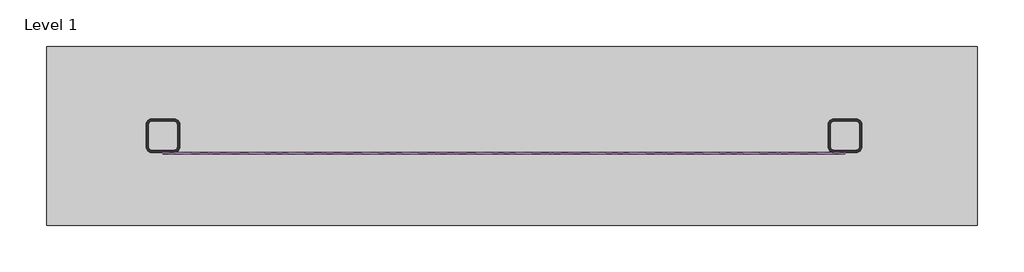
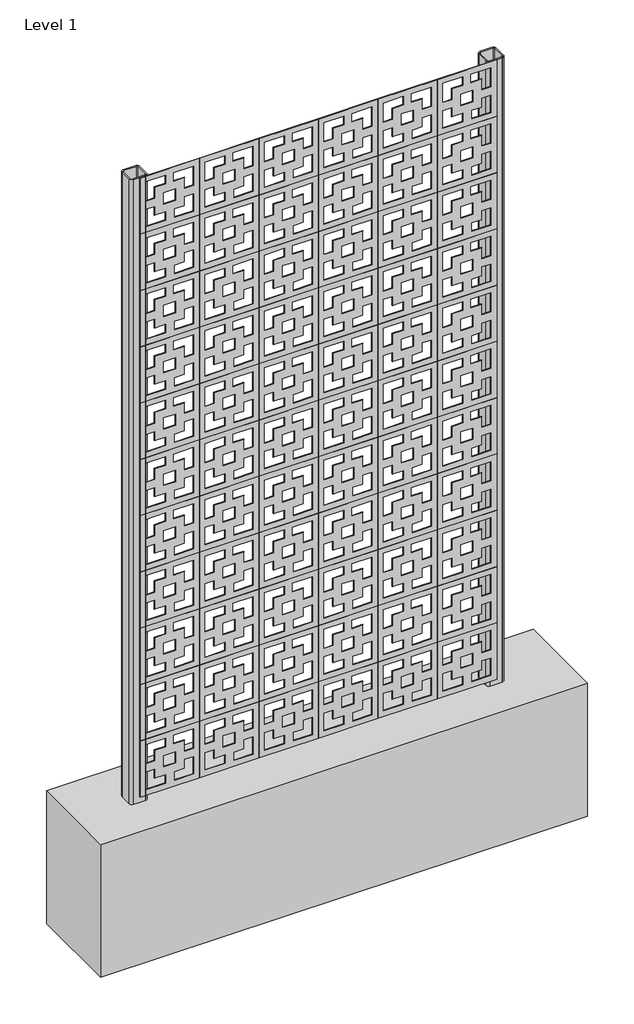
# One storey: 66 plates, 2 columns, 1 beam.
"""IFC4 building model written with IfcOpenShell, lengths in millimetres."""

import ifcopenshell
import ifcopenshell.guid

model = None  # the IFC model being written
_history = None  # IfcOwnerHistory: only IFC2X3 demands one
_inside = {}  # id of a spatial element -> (the spatial element, [elements in it])
_under = {}  # id of a project, library or spatial element -> (it, [spatial elements below it])
_declared = {}  # id of a project -> (the project, [libraries it declares])
_typed = {}  # id of a type object -> (the type object, [elements of that type])
_made_of = {}  # id of a material, layer set ... -> (it, [elements and type objects made of it])


def new_model(schema):
    """Start an empty IFC model of exactly this schema.

    Asked for "IFC4X3", IfcOpenShell would pick the latest addendum, in which some entities
    have other attributes; the version numbers below select the first issue.
    IFC2X3 requires an IfcOwnerHistory on every rooted entity: one is made here for all.
    """
    global model, _history
    if schema == "IFC4X3":
        model = ifcopenshell.file(schema_version=(4, 3, 0, 0))
    else:
        model = ifcopenshell.file(schema=schema)
    _inside.clear()
    _under.clear()
    _declared.clear()
    _typed.clear()
    _made_of.clear()
    _history = None
    if model.schema == "IFC2X3":
        org = make("IfcOrganization", Name="unknown")
        user = make(
            "IfcPersonAndOrganization",
            ThePerson=make("IfcPerson", FamilyName="unknown"),
            TheOrganization=org,
        )
        app = make(
            "IfcApplication",
            ApplicationDeveloper=org,
            Version="unknown",
            ApplicationFullName="unknown",
            ApplicationIdentifier="unknown",
        )
        _history = make(
            "IfcOwnerHistory",
            OwningUser=user,
            OwningApplication=app,
            ChangeAction="ADDED",
            CreationDate=0,
        )
    return model


def make(cls, **values):
    """One entity of the class cls with the attributes given. An attribute that is None is left unset."""
    return model.create_entity(
        cls, **{name: value for name, value in values.items() if value is not None}
    )


def rooted(cls, **values):
    """An entity with a GlobalId (a new one), such as an element, a storey or a relation."""
    return make(cls, GlobalId=ifcopenshell.guid.new(), OwnerHistory=_history, **values)


def si_unit(unit_type, name, prefix=None):
    """IfcSIUnit, for example si_unit("LENGTHUNIT", "METRE", prefix="MILLI")."""
    return make("IfcSIUnit", UnitType=unit_type, Prefix=prefix, Name=name)


def assignment(units):
    """IfcUnitAssignment: the units of a project."""
    return None if units is None else make("IfcUnitAssignment", Units=units)


def point(xyz):
    """IfcCartesianPoint."""
    return None if xyz is None else make("IfcCartesianPoint", Coordinates=xyz)


def direction(xyz):
    """IfcDirection."""
    return None if xyz is None else make("IfcDirection", DirectionRatios=xyz)


def frame(location, z_axis=None, x_axis=None):
    """IfcAxis2Placement3D, a coordinate frame: its origin and axes. An axis left out is left unset."""
    return make(
        "IfcAxis2Placement3D",
        Location=point(location),
        Axis=direction(z_axis),
        RefDirection=direction(x_axis),
    )


def frame_2d(location, x_axis=None):
    """IfcAxis2Placement2D, a coordinate frame in the plane: its origin and x axis."""
    return make(
        "IfcAxis2Placement2D", Location=point(location), RefDirection=direction(x_axis)
    )


def origin():
    """The frame at (0, 0, 0) with its axes left unset."""
    return frame((0.0, 0.0, 0.0))


def origin_with_axes():
    """The frame at (0, 0, 0) with the z axis (0, 0, 1) and the x axis (1, 0, 0) written out."""
    return frame((0.0, 0.0, 0.0), z_axis=(0.0, 0.0, 1.0), x_axis=(1.0, 0.0, 0.0))


def place(relative_to, where):
    """IfcLocalPlacement: puts the frame where relative to a parent placement (None: the world)."""
    return make(
        "IfcLocalPlacement", PlacementRelTo=relative_to, RelativePlacement=where
    )


def context(
    kind, dimensions, precision=None, world=None, true_north=None, identifier=None
):
    """IfcGeometricRepresentationContext, for example the 3D "Model" context."""
    return make(
        "IfcGeometricRepresentationContext",
        ContextIdentifier=identifier,
        ContextType=kind,
        CoordinateSpaceDimension=dimensions,
        Precision=precision,
        WorldCoordinateSystem=world,
        TrueNorth=true_north,
    )


def project(units=None, contexts=None):
    """IfcProject with its units and contexts."""
    return rooted(
        "IfcProject",
        Name="project",
        RepresentationContexts=contexts,
        UnitsInContext=assignment(units),
    )


def spatial(cls, under=None, at=None, **own):
    """A site, building, storey or space (cls), placed at a placement, below another one or the project."""
    s = rooted(cls, ObjectPlacement=at, **own)
    if under is not None:
        _under.setdefault(under.id(), (under, []))[1].append(s)
    return s


def polyline(points):
    """IfcPolyline through the points."""
    return make("IfcPolyline", Points=[point(p) for p in points])


def circle_curve(where, radius):
    """IfcCircle in the frame where."""
    return make("IfcCircle", Position=where, Radius=radius)


def trimmed(basis, trim1, trim2, sense, master):
    """IfcTrimmedCurve: the piece of a basis curve between two trims."""
    return make(
        "IfcTrimmedCurve",
        BasisCurve=basis,
        Trim1=trim1,
        Trim2=trim2,
        SenseAgreement=sense,
        MasterRepresentation=master,
    )


def segment(curve, same_sense, transition):
    """IfcCompositeCurveSegment."""
    return make(
        "IfcCompositeCurveSegment",
        Transition=transition,
        SameSense=same_sense,
        ParentCurve=curve,
    )


def composite_curve(segments, self_intersect=None):
    """IfcCompositeCurve: segments joined end to end."""
    return make("IfcCompositeCurve", Segments=segments, SelfIntersect=self_intersect)


def outline(outer, holes=None, kind="AREA"):
    """IfcArbitraryClosedProfileDef: a profile drawn as a closed curve; with holes, ...WithVoids."""
    if holes is None:
        return make("IfcArbitraryClosedProfileDef", ProfileType=kind, OuterCurve=outer)
    return make(
        "IfcArbitraryProfileDefWithVoids",
        ProfileType=kind,
        OuterCurve=outer,
        InnerCurves=holes,
    )


def extrude(swept, where, along, depth):
    """IfcExtrudedAreaSolid: the profile swept, set in the frame where, extruded along a direction by depth."""
    return make(
        "IfcExtrudedAreaSolid",
        SweptArea=swept,
        Position=where,
        ExtrudedDirection=direction(along),
        Depth=depth,
    )


def shape(context_of_items, identifier, shape_type, items):
    """IfcShapeRepresentation: the items that make up one representation, for example the "Body"."""
    return make(
        "IfcShapeRepresentation",
        ContextOfItems=context_of_items,
        RepresentationIdentifier=identifier,
        RepresentationType=shape_type,
        Items=items,
    )


def source(mapping_origin, context_of_items, identifier, shape_type, items):
    """IfcRepresentationMap: a shape defined once, which mapped items show again and again."""
    return make(
        "IfcRepresentationMap",
        MappingOrigin=mapping_origin,
        MappedRepresentation=shape(context_of_items, identifier, shape_type, items),
    )


def transform(
    local_origin,
    x_axis=None,
    y_axis=None,
    z_axis=None,
    scale=None,
    scale2=None,
    scale3=None,
    uniform=True,
):
    """IfcCartesianTransformationOperator3D, or its non-uniform kind. x_axis, y_axis, z_axis: its Axis1, 2, 3."""
    if uniform:
        return make(
            "IfcCartesianTransformationOperator3D",
            Axis1=direction(x_axis),
            Axis2=direction(y_axis),
            LocalOrigin=point(local_origin),
            Scale=scale,
            Axis3=direction(z_axis),
        )
    return make(
        "IfcCartesianTransformationOperator3DnonUniform",
        Axis1=direction(x_axis),
        Axis2=direction(y_axis),
        LocalOrigin=point(local_origin),
        Scale=scale,
        Axis3=direction(z_axis),
        Scale2=scale2,
        Scale3=scale3,
    )


def mapped(mapping_source, mapping_target):
    """IfcMappedItem: shows the shape of a source again, moved by a transform."""
    return make(
        "IfcMappedItem", MappingSource=mapping_source, MappingTarget=mapping_target
    )


def made_of(thing, what):
    """Note that an element or type object is made of a material, layer set ...; save() writes the relation."""
    if what is not None:
        _made_of.setdefault(what.id(), (what, []))[1].append(thing)
    return thing


def element(
    cls,
    number,
    at=None,
    inside=None,
    cuts=None,
    type_object=None,
    material=None,
    context=None,
    identifier="Body",
    shape_type=None,
    held_by="IfcProductDefinitionShape",
    body=None,
    shapes=None,
    **own,
):
    """One element of the class cls, such as IfcWall. Its Tag is "e" and its number.

    at: its placement. inside: the storey or other place that contains it. cuts: it is an
    opening in that element (IfcRelVoidsElement). A single representation is given by context,
    identifier, shape_type and body (its items); several are given by shapes. held_by: the class
    of the entity that holds the representations. save() writes the other relations.
    """
    e = rooted(cls, Tag="e%d" % number, ObjectPlacement=at, **own)
    if body is not None:
        shapes = [shape(context, identifier, shape_type, body)]
    if shapes is not None:
        e.Representation = make(held_by, Representations=shapes)
    if inside is not None:
        _inside.setdefault(inside.id(), (inside, []))[1].append(e)
    if cuts is not None:
        rooted(
            "IfcRelVoidsElement", RelatingBuildingElement=cuts, RelatedOpeningElement=e
        )
    if type_object is not None:
        _typed.setdefault(type_object.id(), (type_object, []))[1].append(e)
    return made_of(e, material)


def aggregate(whole, parts):
    """IfcRelAggregates: a whole, such as a stair, and the parts it consists of."""
    return rooted("IfcRelAggregates", RelatingObject=whole, RelatedObjects=parts)


def save(model, path):
    """Write the relations noted so far, then the file.

    IfcRelAggregates (storeys below a building ...), IfcRelContainedInSpatialStructure (elements
    in a storey), IfcRelDefinesByType, IfcRelAssociatesMaterial and IfcRelDeclares: one each for
    every whole, place, type object, material and project.
    """
    for whole, parts in _under.values():
        aggregate(whole, parts)
    for where, things in _inside.values():
        rooted(
            "IfcRelContainedInSpatialStructure",
            RelatedElements=things,
            RelatingStructure=where,
        )
    for kind, things in _typed.values():
        rooted("IfcRelDefinesByType", RelatedObjects=things, RelatingType=kind)
    for what, things in _made_of.values():
        rooted("IfcRelAssociatesMaterial", RelatedObjects=things, RelatingMaterial=what)
    for by, libraries in _declared.values():
        rooted("IfcRelDeclares", RelatingContext=by, RelatedDefinitions=libraries)
    model.write(path)


def concrete_rectangular_beam_400_x_600mm_1df2221c(model_context):
    return source(origin(), model_context, "Body", "SweptSolid", [
        extrude(outline(polyline([(1040.0, 199.9753906), (1040.0, -199.9753906), (-1040.0, -199.9753906), (-1040.0, 199.9753906), (1040.0, 199.9753906)])), frame((0.0, 0.0, -300.0), z_axis=(0.0, 0.0, 1.0), x_axis=(1.0, 0.0, 0.0)), (0.0, 0.0, 1.0), 600.0),
    ])


def shs_75x75x5_c6d00cb3(model_context):
    return source(origin(), model_context, "Body", "SweptSolid", [
        extrude(outline(composite_curve([segment(trimmed(circle_curve(frame_2d((25.5, 25.5)), 12.0), [point((25.5, 37.5))], [point((37.5, 25.5))], False, "CARTESIAN"), True, "CONTINUOUS"), segment(polyline([(37.5, 25.5), (37.5, -25.5)]), True, "CONTINUOUS"), segment(trimmed(circle_curve(frame_2d((25.5, -25.5)), 12.0), [point((37.5, -25.5))], [point((25.5, -37.5))], False, "CARTESIAN"), True, "CONTINUOUS"), segment(polyline([(25.5, -37.5), (-25.5, -37.5)]), True, "CONTINUOUS"), segment(trimmed(circle_curve(frame_2d((-25.5, -25.5)), 12.0), [point((-25.5, -37.5))], [point((-37.5, -25.5))], False, "CARTESIAN"), True, "CONTINUOUS"), segment(polyline([(-37.5, -25.5), (-37.5, 25.5)]), True, "CONTINUOUS"), segment(trimmed(circle_curve(frame_2d((-25.5, 25.5)), 12.0), [point((-37.5, 25.5))], [point((-25.5, 37.5))], False, "CARTESIAN"), True, "CONTINUOUS"), segment(polyline([(-25.5, 37.5), (25.5, 37.5)]), True, "CONTINUOUS")], self_intersect=False), holes=[composite_curve([segment(polyline([(25.5, 31.5), (-25.5, 31.5)]), True, "CONTINUOUS"), segment(trimmed(circle_curve(frame_2d((-25.5, 25.5)), 6.0), [point((-25.5, 31.5))], [point((-31.5, 25.5))], True, "CARTESIAN"), True, "CONTINUOUS"), segment(polyline([(-31.5, 25.5), (-31.5, -25.5)]), True, "CONTINUOUS"), segment(trimmed(circle_curve(frame_2d((-25.5, -25.5)), 6.0), [point((-31.5, -25.5))], [point((-25.5, -31.5))], True, "CARTESIAN"), True, "CONTINUOUS"), segment(polyline([(-25.5, -31.5), (25.5, -31.5)]), True, "CONTINUOUS"), segment(trimmed(circle_curve(frame_2d((25.5, -25.5)), 6.0), [point((25.5, -31.5))], [point((31.5, -25.5))], True, "CARTESIAN"), True, "CONTINUOUS"), segment(polyline([(31.5, -25.5), (31.5, 25.5)]), True, "CONTINUOUS"), segment(trimmed(circle_curve(frame_2d((25.5, 25.5)), 6.0), [point((31.5, 25.5))], [point((25.5, 31.5))], True, "CARTESIAN"), True, "CONTINUOUS")], self_intersect=False)]), origin_with_axes(), (0.0, 0.0, 1.0), 2819.4),
    ])


def curtain_garden_party_curtain_garden_party_a87d6bce(model_context):
    return source(origin(), model_context, "Body", "SweptSolid", [
        extrude(outline(polyline([(254.0, 127.0), (254.0, -127.0), (0.0, -127.0), (0.0, 127.0), (254.0, 127.0)]), holes=[polyline([(228.6, -17.05), (190.5, -17.05), (190.5, -63.5), (142.05, -63.5), (142.05, -101.6), (228.6, -101.6), (228.6, -17.05)]), polyline([(152.4, 25.4), (101.6, 25.4), (101.6, -25.4), (152.4, -25.4), (152.4, 25.4)]), polyline([(190.5, 17.05), (228.6, 17.05), (228.6, 101.6), (142.05, 101.6), (142.05, 63.5), (190.5, 63.5), (190.5, 17.05)]), polyline([(25.4, -17.05), (25.4, -101.6), (103.95, -101.6), (103.95, -63.5), (63.5, -63.5), (63.5, -17.05), (25.4, -17.05)]), polyline([(63.5, 21.05), (63.5, 63.5), (103.95, 63.5), (103.95, 101.6), (25.4, 101.6), (25.4, 21.05), (63.5, 21.05)])]), frame((0.0, -3.175, 0.0), z_axis=(0.0, 1.0, 0.0), x_axis=(0.0, 0.0, 1.0)), (0.0, 0.0, 1.0), 3.175),
    ])


model = new_model("IFC4")

# Units and contexts
model_context = context("Model", 3, world=origin())
ifc_project = project(units=[si_unit("LENGTHUNIT", "METRE", prefix="MILLI")], contexts=[model_context])

# Site, building, storey
site = spatial("IfcSite", under=ifc_project)
building = spatial("IfcBuilding", under=site)
storey = spatial("IfcBuildingStorey", under=building, Name="Level 1", Elevation=0.0)

# Beam
placement = place(None, origin())
concrete_rectangular_beam_400_x_600mm_shape = concrete_rectangular_beam_400_x_600mm_1df2221c(model_context)
element("IfcBeam", 1, ObjectType="Concrete-Rectangular Beam : 400 x 600mm", at=placement, inside=storey, context=model_context, shape_type="MappedRepresentation", body=[
    mapped(concrete_rectangular_beam_400_x_600mm_shape, transform((-6428.7598487, 114.0371028, -300.0), x_axis=(1.0, 0.0, 0.0), y_axis=(0.0, 1.0, 0.0), z_axis=(0.0, 0.0, 1.0))),
])

# Columns
shs_75x75x5_shape = shs_75x75x5_c6d00cb3(model_context)
element("IfcColumn", 2, ObjectType="NIA_ST_CLMN_RHS-Rectangular Hollow Section-Column : SHS 75x75x5", at=placement, inside=storey, context=model_context, shape_type="MappedRepresentation", body=[
    mapped(shs_75x75x5_shape, transform((-5684.7598487, 114.0371028, 0.0), x_axis=(1.0, 0.0, 0.0), y_axis=(0.0, 1.0, 0.0), z_axis=(0.0, 0.0, 1.0))),
])
element("IfcColumn", 3, ObjectType="NIA_ST_CLMN_RHS-Rectangular Hollow Section-Column : SHS 75x75x5", at=placement, inside=storey, context=model_context, shape_type="MappedRepresentation", body=[
    mapped(shs_75x75x5_shape, transform((-7208.7598487, 114.0371028, 0.0), x_axis=(1.0, 0.0, 0.0), y_axis=(0.0, 1.0, 0.0), z_axis=(0.0, 0.0, 1.0))),
])

# Plates
curtain_garden_party_curtain_garden_party_shape = curtain_garden_party_curtain_garden_party_a87d6bce(model_context)
element("IfcPlate", 4, ObjectType="Curtain_Garden_Party : Curtain_Garden_Party", at=placement, inside=storey, context=model_context, shape_type="MappedRepresentation", body=[
    mapped(curtain_garden_party_curtain_garden_party_shape, transform((-7081.7598486, 76.5371028, 25.4), x_axis=(1.0, 0.0, 0.0), y_axis=(0.0, 1.0, 0.0), z_axis=(0.0, 0.0, 1.0))),
])
element("IfcPlate", 5, ObjectType="Curtain_Garden_Party : Curtain_Garden_Party", at=placement, inside=storey, context=model_context, shape_type="MappedRepresentation", body=[
    mapped(curtain_garden_party_curtain_garden_party_shape, transform((-6827.7598486, 76.5371028, 25.4), x_axis=(1.0, 0.0, 0.0), y_axis=(0.0, 1.0, 0.0), z_axis=(0.0, 0.0, 1.0))),
])
element("IfcPlate", 6, ObjectType="Curtain_Garden_Party : Curtain_Garden_Party", at=placement, inside=storey, context=model_context, shape_type="MappedRepresentation", body=[
    mapped(curtain_garden_party_curtain_garden_party_shape, transform((-6573.7598487, 76.5371028, 25.4), x_axis=(1.0, 0.0, 0.0), y_axis=(0.0, 1.0, 0.0), z_axis=(0.0, 0.0, 1.0))),
])
element("IfcPlate", 7, ObjectType="Curtain_Garden_Party : Curtain_Garden_Party", at=placement, inside=storey, context=model_context, shape_type="MappedRepresentation", body=[
    mapped(curtain_garden_party_curtain_garden_party_shape, transform((-6319.7598488, 76.5371028, 25.4), x_axis=(1.0, 0.0, 0.0), y_axis=(0.0, 1.0, 0.0), z_axis=(0.0, 0.0, 1.0))),
])
element("IfcPlate", 8, ObjectType="Curtain_Garden_Party : Curtain_Garden_Party", at=placement, inside=storey, context=model_context, shape_type="MappedRepresentation", body=[
    mapped(curtain_garden_party_curtain_garden_party_shape, transform((-6065.7598489, 76.5371028, 25.4), x_axis=(1.0, 0.0, 0.0), y_axis=(0.0, 1.0, 0.0), z_axis=(0.0, 0.0, 1.0))),
])
element("IfcPlate", 9, ObjectType="Curtain_Garden_Party : Curtain_Garden_Party", at=placement, inside=storey, context=model_context, shape_type="MappedRepresentation", body=[
    mapped(curtain_garden_party_curtain_garden_party_shape, transform((-5811.7598488, 76.5371028, 25.4), x_axis=(1.0, 0.0, 0.0), y_axis=(0.0, 1.0, 0.0), z_axis=(0.0, 0.0, 1.0))),
])
element("IfcPlate", 10, ObjectType="Curtain_Garden_Party : Curtain_Garden_Party", at=placement, inside=storey, context=model_context, shape_type="MappedRepresentation", body=[
    mapped(curtain_garden_party_curtain_garden_party_shape, transform((-7081.7598486, 76.5371028, 279.4), x_axis=(1.0, 0.0, 0.0), y_axis=(0.0, 1.0, 0.0), z_axis=(0.0, 0.0, 1.0))),
])
element("IfcPlate", 11, ObjectType="Curtain_Garden_Party : Curtain_Garden_Party", at=placement, inside=storey, context=model_context, shape_type="MappedRepresentation", body=[
    mapped(curtain_garden_party_curtain_garden_party_shape, transform((-6827.7598486, 76.5371028, 279.4), x_axis=(1.0, 0.0, 0.0), y_axis=(0.0, 1.0, 0.0), z_axis=(0.0, 0.0, 1.0))),
])
element("IfcPlate", 12, ObjectType="Curtain_Garden_Party : Curtain_Garden_Party", at=placement, inside=storey, context=model_context, shape_type="MappedRepresentation", body=[
    mapped(curtain_garden_party_curtain_garden_party_shape, transform((-6573.7598487, 76.5371028, 279.4), x_axis=(1.0, 0.0, 0.0), y_axis=(0.0, 1.0, 0.0), z_axis=(0.0, 0.0, 1.0))),
])
element("IfcPlate", 13, ObjectType="Curtain_Garden_Party : Curtain_Garden_Party", at=placement, inside=storey, context=model_context, shape_type="MappedRepresentation", body=[
    mapped(curtain_garden_party_curtain_garden_party_shape, transform((-6319.7598488, 76.5371028, 279.4), x_axis=(1.0, 0.0, 0.0), y_axis=(0.0, 1.0, 0.0), z_axis=(0.0, 0.0, 1.0))),
])
element("IfcPlate", 14, ObjectType="Curtain_Garden_Party : Curtain_Garden_Party", at=placement, inside=storey, context=model_context, shape_type="MappedRepresentation", body=[
    mapped(curtain_garden_party_curtain_garden_party_shape, transform((-6065.7598489, 76.5371028, 279.4), x_axis=(1.0, 0.0, 0.0), y_axis=(0.0, 1.0, 0.0), z_axis=(0.0, 0.0, 1.0))),
])
element("IfcPlate", 15, ObjectType="Curtain_Garden_Party : Curtain_Garden_Party", at=placement, inside=storey, context=model_context, shape_type="MappedRepresentation", body=[
    mapped(curtain_garden_party_curtain_garden_party_shape, transform((-5811.7598488, 76.5371028, 279.4), x_axis=(1.0, 0.0, 0.0), y_axis=(0.0, 1.0, 0.0), z_axis=(0.0, 0.0, 1.0))),
])
element("IfcPlate", 16, ObjectType="Curtain_Garden_Party : Curtain_Garden_Party", at=placement, inside=storey, context=model_context, shape_type="MappedRepresentation", body=[
    mapped(curtain_garden_party_curtain_garden_party_shape, transform((-7081.7598486, 76.5371028, 533.4), x_axis=(1.0, 0.0, 0.0), y_axis=(0.0, 1.0, 0.0), z_axis=(0.0, 0.0, 1.0))),
])
element("IfcPlate", 17, ObjectType="Curtain_Garden_Party : Curtain_Garden_Party", at=placement, inside=storey, context=model_context, shape_type="MappedRepresentation", body=[
    mapped(curtain_garden_party_curtain_garden_party_shape, transform((-6827.7598486, 76.5371028, 533.4), x_axis=(1.0, 0.0, 0.0), y_axis=(0.0, 1.0, 0.0), z_axis=(0.0, 0.0, 1.0))),
])
element("IfcPlate", 18, ObjectType="Curtain_Garden_Party : Curtain_Garden_Party", at=placement, inside=storey, context=model_context, shape_type="MappedRepresentation", body=[
    mapped(curtain_garden_party_curtain_garden_party_shape, transform((-6573.7598487, 76.5371028, 533.4), x_axis=(1.0, 0.0, 0.0), y_axis=(0.0, 1.0, 0.0), z_axis=(0.0, 0.0, 1.0))),
])
element("IfcPlate", 19, ObjectType="Curtain_Garden_Party : Curtain_Garden_Party", at=placement, inside=storey, context=model_context, shape_type="MappedRepresentation", body=[
    mapped(curtain_garden_party_curtain_garden_party_shape, transform((-6319.7598488, 76.5371028, 533.4), x_axis=(1.0, 0.0, 0.0), y_axis=(0.0, 1.0, 0.0), z_axis=(0.0, 0.0, 1.0))),
])
element("IfcPlate", 20, ObjectType="Curtain_Garden_Party : Curtain_Garden_Party", at=placement, inside=storey, context=model_context, shape_type="MappedRepresentation", body=[
    mapped(curtain_garden_party_curtain_garden_party_shape, transform((-6065.7598489, 76.5371028, 533.4), x_axis=(1.0, 0.0, 0.0), y_axis=(0.0, 1.0, 0.0), z_axis=(0.0, 0.0, 1.0))),
])
element("IfcPlate", 21, ObjectType="Curtain_Garden_Party : Curtain_Garden_Party", at=placement, inside=storey, context=model_context, shape_type="MappedRepresentation", body=[
    mapped(curtain_garden_party_curtain_garden_party_shape, transform((-5811.7598488, 76.5371028, 533.4), x_axis=(1.0, 0.0, 0.0), y_axis=(0.0, 1.0, 0.0), z_axis=(0.0, 0.0, 1.0))),
])
element("IfcPlate", 22, ObjectType="Curtain_Garden_Party : Curtain_Garden_Party", at=placement, inside=storey, context=model_context, shape_type="MappedRepresentation", body=[
    mapped(curtain_garden_party_curtain_garden_party_shape, transform((-7081.7598486, 76.5371028, 787.4), x_axis=(1.0, 0.0, 0.0), y_axis=(0.0, 1.0, 0.0), z_axis=(0.0, 0.0, 1.0))),
])
element("IfcPlate", 23, ObjectType="Curtain_Garden_Party : Curtain_Garden_Party", at=placement, inside=storey, context=model_context, shape_type="MappedRepresentation", body=[
    mapped(curtain_garden_party_curtain_garden_party_shape, transform((-6827.7598486, 76.5371028, 787.4), x_axis=(1.0, 0.0, 0.0), y_axis=(0.0, 1.0, 0.0), z_axis=(0.0, 0.0, 1.0))),
])
element("IfcPlate", 24, ObjectType="Curtain_Garden_Party : Curtain_Garden_Party", at=placement, inside=storey, context=model_context, shape_type="MappedRepresentation", body=[
    mapped(curtain_garden_party_curtain_garden_party_shape, transform((-6573.7598487, 76.5371028, 787.4), x_axis=(1.0, 0.0, 0.0), y_axis=(0.0, 1.0, 0.0), z_axis=(0.0, 0.0, 1.0))),
])
element("IfcPlate", 25, ObjectType="Curtain_Garden_Party : Curtain_Garden_Party", at=placement, inside=storey, context=model_context, shape_type="MappedRepresentation", body=[
    mapped(curtain_garden_party_curtain_garden_party_shape, transform((-6319.7598488, 76.5371028, 787.4), x_axis=(1.0, 0.0, 0.0), y_axis=(0.0, 1.0, 0.0), z_axis=(0.0, 0.0, 1.0))),
])
element("IfcPlate", 26, ObjectType="Curtain_Garden_Party : Curtain_Garden_Party", at=placement, inside=storey, context=model_context, shape_type="MappedRepresentation", body=[
    mapped(curtain_garden_party_curtain_garden_party_shape, transform((-6065.7598489, 76.5371028, 787.4), x_axis=(1.0, 0.0, 0.0), y_axis=(0.0, 1.0, 0.0), z_axis=(0.0, 0.0, 1.0))),
])
element("IfcPlate", 27, ObjectType="Curtain_Garden_Party : Curtain_Garden_Party", at=placement, inside=storey, context=model_context, shape_type="MappedRepresentation", body=[
    mapped(curtain_garden_party_curtain_garden_party_shape, transform((-5811.7598488, 76.5371028, 787.4), x_axis=(1.0, 0.0, 0.0), y_axis=(0.0, 1.0, 0.0), z_axis=(0.0, 0.0, 1.0))),
])
element("IfcPlate", 28, ObjectType="Curtain_Garden_Party : Curtain_Garden_Party", at=placement, inside=storey, context=model_context, shape_type="MappedRepresentation", body=[
    mapped(curtain_garden_party_curtain_garden_party_shape, transform((-7081.7598486, 76.5371028, 1041.4), x_axis=(1.0, 0.0, 0.0), y_axis=(0.0, 1.0, 0.0), z_axis=(0.0, 0.0, 1.0))),
])
element("IfcPlate", 29, ObjectType="Curtain_Garden_Party : Curtain_Garden_Party", at=placement, inside=storey, context=model_context, shape_type="MappedRepresentation", body=[
    mapped(curtain_garden_party_curtain_garden_party_shape, transform((-6827.7598486, 76.5371028, 1041.4), x_axis=(1.0, 0.0, 0.0), y_axis=(0.0, 1.0, 0.0), z_axis=(0.0, 0.0, 1.0))),
])
element("IfcPlate", 30, ObjectType="Curtain_Garden_Party : Curtain_Garden_Party", at=placement, inside=storey, context=model_context, shape_type="MappedRepresentation", body=[
    mapped(curtain_garden_party_curtain_garden_party_shape, transform((-6573.7598487, 76.5371028, 1041.4), x_axis=(1.0, 0.0, 0.0), y_axis=(0.0, 1.0, 0.0), z_axis=(0.0, 0.0, 1.0))),
])
element("IfcPlate", 31, ObjectType="Curtain_Garden_Party : Curtain_Garden_Party", at=placement, inside=storey, context=model_context, shape_type="MappedRepresentation", body=[
    mapped(curtain_garden_party_curtain_garden_party_shape, transform((-6319.7598488, 76.5371028, 1041.4), x_axis=(1.0, 0.0, 0.0), y_axis=(0.0, 1.0, 0.0), z_axis=(0.0, 0.0, 1.0))),
])
element("IfcPlate", 32, ObjectType="Curtain_Garden_Party : Curtain_Garden_Party", at=placement, inside=storey, context=model_context, shape_type="MappedRepresentation", body=[
    mapped(curtain_garden_party_curtain_garden_party_shape, transform((-6065.7598489, 76.5371028, 1041.4), x_axis=(1.0, 0.0, 0.0), y_axis=(0.0, 1.0, 0.0), z_axis=(0.0, 0.0, 1.0))),
])
element("IfcPlate", 33, ObjectType="Curtain_Garden_Party : Curtain_Garden_Party", at=placement, inside=storey, context=model_context, shape_type="MappedRepresentation", body=[
    mapped(curtain_garden_party_curtain_garden_party_shape, transform((-5811.7598488, 76.5371028, 1041.4), x_axis=(1.0, 0.0, 0.0), y_axis=(0.0, 1.0, 0.0), z_axis=(0.0, 0.0, 1.0))),
])
element("IfcPlate", 34, ObjectType="Curtain_Garden_Party : Curtain_Garden_Party", at=placement, inside=storey, context=model_context, shape_type="MappedRepresentation", body=[
    mapped(curtain_garden_party_curtain_garden_party_shape, transform((-7081.7598486, 76.5371028, 1295.4), x_axis=(1.0, 0.0, 0.0), y_axis=(0.0, 1.0, 0.0), z_axis=(0.0, 0.0, 1.0))),
])
element("IfcPlate", 35, ObjectType="Curtain_Garden_Party : Curtain_Garden_Party", at=placement, inside=storey, context=model_context, shape_type="MappedRepresentation", body=[
    mapped(curtain_garden_party_curtain_garden_party_shape, transform((-6827.7598486, 76.5371028, 1295.4), x_axis=(1.0, 0.0, 0.0), y_axis=(0.0, 1.0, 0.0), z_axis=(0.0, 0.0, 1.0))),
])
element("IfcPlate", 36, ObjectType="Curtain_Garden_Party : Curtain_Garden_Party", at=placement, inside=storey, context=model_context, shape_type="MappedRepresentation", body=[
    mapped(curtain_garden_party_curtain_garden_party_shape, transform((-6573.7598487, 76.5371028, 1295.4), x_axis=(1.0, 0.0, 0.0), y_axis=(0.0, 1.0, 0.0), z_axis=(0.0, 0.0, 1.0))),
])
element("IfcPlate", 37, ObjectType="Curtain_Garden_Party : Curtain_Garden_Party", at=placement, inside=storey, context=model_context, shape_type="MappedRepresentation", body=[
    mapped(curtain_garden_party_curtain_garden_party_shape, transform((-6319.7598488, 76.5371028, 1295.4), x_axis=(1.0, 0.0, 0.0), y_axis=(0.0, 1.0, 0.0), z_axis=(0.0, 0.0, 1.0))),
])
element("IfcPlate", 38, ObjectType="Curtain_Garden_Party : Curtain_Garden_Party", at=placement, inside=storey, context=model_context, shape_type="MappedRepresentation", body=[
    mapped(curtain_garden_party_curtain_garden_party_shape, transform((-6065.7598489, 76.5371028, 1295.4), x_axis=(1.0, 0.0, 0.0), y_axis=(0.0, 1.0, 0.0), z_axis=(0.0, 0.0, 1.0))),
])
element("IfcPlate", 39, ObjectType="Curtain_Garden_Party : Curtain_Garden_Party", at=placement, inside=storey, context=model_context, shape_type="MappedRepresentation", body=[
    mapped(curtain_garden_party_curtain_garden_party_shape, transform((-5811.7598488, 76.5371028, 1295.4), x_axis=(1.0, 0.0, 0.0), y_axis=(0.0, 1.0, 0.0), z_axis=(0.0, 0.0, 1.0))),
])
element("IfcPlate", 40, ObjectType="Curtain_Garden_Party : Curtain_Garden_Party", at=placement, inside=storey, context=model_context, shape_type="MappedRepresentation", body=[
    mapped(curtain_garden_party_curtain_garden_party_shape, transform((-7081.7598486, 76.5371028, 1549.4), x_axis=(1.0, 0.0, 0.0), y_axis=(0.0, 1.0, 0.0), z_axis=(0.0, 0.0, 1.0))),
])
element("IfcPlate", 41, ObjectType="Curtain_Garden_Party : Curtain_Garden_Party", at=placement, inside=storey, context=model_context, shape_type="MappedRepresentation", body=[
    mapped(curtain_garden_party_curtain_garden_party_shape, transform((-6827.7598486, 76.5371028, 1549.4), x_axis=(1.0, 0.0, 0.0), y_axis=(0.0, 1.0, 0.0), z_axis=(0.0, 0.0, 1.0))),
])
element("IfcPlate", 42, ObjectType="Curtain_Garden_Party : Curtain_Garden_Party", at=placement, inside=storey, context=model_context, shape_type="MappedRepresentation", body=[
    mapped(curtain_garden_party_curtain_garden_party_shape, transform((-6573.7598487, 76.5371028, 1549.4), x_axis=(1.0, 0.0, 0.0), y_axis=(0.0, 1.0, 0.0), z_axis=(0.0, 0.0, 1.0))),
])
element("IfcPlate", 43, ObjectType="Curtain_Garden_Party : Curtain_Garden_Party", at=placement, inside=storey, context=model_context, shape_type="MappedRepresentation", body=[
    mapped(curtain_garden_party_curtain_garden_party_shape, transform((-6319.7598488, 76.5371028, 1549.4), x_axis=(1.0, 0.0, 0.0), y_axis=(0.0, 1.0, 0.0), z_axis=(0.0, 0.0, 1.0))),
])
element("IfcPlate", 44, ObjectType="Curtain_Garden_Party : Curtain_Garden_Party", at=placement, inside=storey, context=model_context, shape_type="MappedRepresentation", body=[
    mapped(curtain_garden_party_curtain_garden_party_shape, transform((-6065.7598489, 76.5371028, 1549.4), x_axis=(1.0, 0.0, 0.0), y_axis=(0.0, 1.0, 0.0), z_axis=(0.0, 0.0, 1.0))),
])
element("IfcPlate", 45, ObjectType="Curtain_Garden_Party : Curtain_Garden_Party", at=placement, inside=storey, context=model_context, shape_type="MappedRepresentation", body=[
    mapped(curtain_garden_party_curtain_garden_party_shape, transform((-5811.7598488, 76.5371028, 1549.4), x_axis=(1.0, 0.0, 0.0), y_axis=(0.0, 1.0, 0.0), z_axis=(0.0, 0.0, 1.0))),
])
element("IfcPlate", 46, ObjectType="Curtain_Garden_Party : Curtain_Garden_Party", at=placement, inside=storey, context=model_context, shape_type="MappedRepresentation", body=[
    mapped(curtain_garden_party_curtain_garden_party_shape, transform((-7081.7598486, 76.5371028, 1803.4), x_axis=(1.0, 0.0, 0.0), y_axis=(0.0, 1.0, 0.0), z_axis=(0.0, 0.0, 1.0))),
])
element("IfcPlate", 47, ObjectType="Curtain_Garden_Party : Curtain_Garden_Party", at=placement, inside=storey, context=model_context, shape_type="MappedRepresentation", body=[
    mapped(curtain_garden_party_curtain_garden_party_shape, transform((-6827.7598486, 76.5371028, 1803.4), x_axis=(1.0, 0.0, 0.0), y_axis=(0.0, 1.0, 0.0), z_axis=(0.0, 0.0, 1.0))),
])
element("IfcPlate", 48, ObjectType="Curtain_Garden_Party : Curtain_Garden_Party", at=placement, inside=storey, context=model_context, shape_type="MappedRepresentation", body=[
    mapped(curtain_garden_party_curtain_garden_party_shape, transform((-6573.7598487, 76.5371028, 1803.4), x_axis=(1.0, 0.0, 0.0), y_axis=(0.0, 1.0, 0.0), z_axis=(0.0, 0.0, 1.0))),
])
element("IfcPlate", 49, ObjectType="Curtain_Garden_Party : Curtain_Garden_Party", at=placement, inside=storey, context=model_context, shape_type="MappedRepresentation", body=[
    mapped(curtain_garden_party_curtain_garden_party_shape, transform((-6319.7598488, 76.5371028, 1803.4), x_axis=(1.0, 0.0, 0.0), y_axis=(0.0, 1.0, 0.0), z_axis=(0.0, 0.0, 1.0))),
])
element("IfcPlate", 50, ObjectType="Curtain_Garden_Party : Curtain_Garden_Party", at=placement, inside=storey, context=model_context, shape_type="MappedRepresentation", body=[
    mapped(curtain_garden_party_curtain_garden_party_shape, transform((-6065.7598489, 76.5371028, 1803.4), x_axis=(1.0, 0.0, 0.0), y_axis=(0.0, 1.0, 0.0), z_axis=(0.0, 0.0, 1.0))),
])
element("IfcPlate", 51, ObjectType="Curtain_Garden_Party : Curtain_Garden_Party", at=placement, inside=storey, context=model_context, shape_type="MappedRepresentation", body=[
    mapped(curtain_garden_party_curtain_garden_party_shape, transform((-5811.7598488, 76.5371028, 1803.4), x_axis=(1.0, 0.0, 0.0), y_axis=(0.0, 1.0, 0.0), z_axis=(0.0, 0.0, 1.0))),
])
element("IfcPlate", 52, ObjectType="Curtain_Garden_Party : Curtain_Garden_Party", at=placement, inside=storey, context=model_context, shape_type="MappedRepresentation", body=[
    mapped(curtain_garden_party_curtain_garden_party_shape, transform((-7081.7598486, 76.5371028, 2057.4), x_axis=(1.0, 0.0, 0.0), y_axis=(0.0, 1.0, 0.0), z_axis=(0.0, 0.0, 1.0))),
])
element("IfcPlate", 53, ObjectType="Curtain_Garden_Party : Curtain_Garden_Party", at=placement, inside=storey, context=model_context, shape_type="MappedRepresentation", body=[
    mapped(curtain_garden_party_curtain_garden_party_shape, transform((-6827.7598486, 76.5371028, 2057.4), x_axis=(1.0, 0.0, 0.0), y_axis=(0.0, 1.0, 0.0), z_axis=(0.0, 0.0, 1.0))),
])
element("IfcPlate", 54, ObjectType="Curtain_Garden_Party : Curtain_Garden_Party", at=placement, inside=storey, context=model_context, shape_type="MappedRepresentation", body=[
    mapped(curtain_garden_party_curtain_garden_party_shape, transform((-6573.7598487, 76.5371028, 2057.4), x_axis=(1.0, 0.0, 0.0), y_axis=(0.0, 1.0, 0.0), z_axis=(0.0, 0.0, 1.0))),
])
element("IfcPlate", 55, ObjectType="Curtain_Garden_Party : Curtain_Garden_Party", at=placement, inside=storey, context=model_context, shape_type="MappedRepresentation", body=[
    mapped(curtain_garden_party_curtain_garden_party_shape, transform((-6319.7598488, 76.5371028, 2057.4), x_axis=(1.0, 0.0, 0.0), y_axis=(0.0, 1.0, 0.0), z_axis=(0.0, 0.0, 1.0))),
])
element("IfcPlate", 56, ObjectType="Curtain_Garden_Party : Curtain_Garden_Party", at=placement, inside=storey, context=model_context, shape_type="MappedRepresentation", body=[
    mapped(curtain_garden_party_curtain_garden_party_shape, transform((-6065.7598489, 76.5371028, 2057.4), x_axis=(1.0, 0.0, 0.0), y_axis=(0.0, 1.0, 0.0), z_axis=(0.0, 0.0, 1.0))),
])
element("IfcPlate", 57, ObjectType="Curtain_Garden_Party : Curtain_Garden_Party", at=placement, inside=storey, context=model_context, shape_type="MappedRepresentation", body=[
    mapped(curtain_garden_party_curtain_garden_party_shape, transform((-5811.7598488, 76.5371028, 2057.4), x_axis=(1.0, 0.0, 0.0), y_axis=(0.0, 1.0, 0.0), z_axis=(0.0, 0.0, 1.0))),
])
element("IfcPlate", 58, ObjectType="Curtain_Garden_Party : Curtain_Garden_Party", at=placement, inside=storey, context=model_context, shape_type="MappedRepresentation", body=[
    mapped(curtain_garden_party_curtain_garden_party_shape, transform((-7081.7598486, 76.5371028, 2311.4), x_axis=(1.0, 0.0, 0.0), y_axis=(0.0, 1.0, 0.0), z_axis=(0.0, 0.0, 1.0))),
])
element("IfcPlate", 59, ObjectType="Curtain_Garden_Party : Curtain_Garden_Party", at=placement, inside=storey, context=model_context, shape_type="MappedRepresentation", body=[
    mapped(curtain_garden_party_curtain_garden_party_shape, transform((-6827.7598486, 76.5371028, 2311.4), x_axis=(1.0, 0.0, 0.0), y_axis=(0.0, 1.0, 0.0), z_axis=(0.0, 0.0, 1.0))),
])
element("IfcPlate", 60, ObjectType="Curtain_Garden_Party : Curtain_Garden_Party", at=placement, inside=storey, context=model_context, shape_type="MappedRepresentation", body=[
    mapped(curtain_garden_party_curtain_garden_party_shape, transform((-6573.7598487, 76.5371028, 2311.4), x_axis=(1.0, 0.0, 0.0), y_axis=(0.0, 1.0, 0.0), z_axis=(0.0, 0.0, 1.0))),
])
element("IfcPlate", 61, ObjectType="Curtain_Garden_Party : Curtain_Garden_Party", at=placement, inside=storey, context=model_context, shape_type="MappedRepresentation", body=[
    mapped(curtain_garden_party_curtain_garden_party_shape, transform((-6319.7598488, 76.5371028, 2311.4), x_axis=(1.0, 0.0, 0.0), y_axis=(0.0, 1.0, 0.0), z_axis=(0.0, 0.0, 1.0))),
])
element("IfcPlate", 62, ObjectType="Curtain_Garden_Party : Curtain_Garden_Party", at=placement, inside=storey, context=model_context, shape_type="MappedRepresentation", body=[
    mapped(curtain_garden_party_curtain_garden_party_shape, transform((-6065.7598489, 76.5371028, 2311.4), x_axis=(1.0, 0.0, 0.0), y_axis=(0.0, 1.0, 0.0), z_axis=(0.0, 0.0, 1.0))),
])
element("IfcPlate", 63, ObjectType="Curtain_Garden_Party : Curtain_Garden_Party", at=placement, inside=storey, context=model_context, shape_type="MappedRepresentation", body=[
    mapped(curtain_garden_party_curtain_garden_party_shape, transform((-5811.7598488, 76.5371028, 2311.4), x_axis=(1.0, 0.0, 0.0), y_axis=(0.0, 1.0, 0.0), z_axis=(0.0, 0.0, 1.0))),
])
element("IfcPlate", 64, ObjectType="Curtain_Garden_Party : Curtain_Garden_Party", at=placement, inside=storey, context=model_context, shape_type="MappedRepresentation", body=[
    mapped(curtain_garden_party_curtain_garden_party_shape, transform((-7081.7598486, 76.5371028, 2565.4), x_axis=(1.0, 0.0, 0.0), y_axis=(0.0, 1.0, 0.0), z_axis=(0.0, 0.0, 1.0))),
])
element("IfcPlate", 65, ObjectType="Curtain_Garden_Party : Curtain_Garden_Party", at=placement, inside=storey, context=model_context, shape_type="MappedRepresentation", body=[
    mapped(curtain_garden_party_curtain_garden_party_shape, transform((-6827.7598486, 76.5371028, 2565.4), x_axis=(1.0, 0.0, 0.0), y_axis=(0.0, 1.0, 0.0), z_axis=(0.0, 0.0, 1.0))),
])
element("IfcPlate", 66, ObjectType="Curtain_Garden_Party : Curtain_Garden_Party", at=placement, inside=storey, context=model_context, shape_type="MappedRepresentation", body=[
    mapped(curtain_garden_party_curtain_garden_party_shape, transform((-6573.7598487, 76.5371028, 2565.4), x_axis=(1.0, 0.0, 0.0), y_axis=(0.0, 1.0, 0.0), z_axis=(0.0, 0.0, 1.0))),
])
element("IfcPlate", 67, ObjectType="Curtain_Garden_Party : Curtain_Garden_Party", at=placement, inside=storey, context=model_context, shape_type="MappedRepresentation", body=[
    mapped(curtain_garden_party_curtain_garden_party_shape, transform((-6319.7598488, 76.5371028, 2565.4), x_axis=(1.0, 0.0, 0.0), y_axis=(0.0, 1.0, 0.0), z_axis=(0.0, 0.0, 1.0))),
])
element("IfcPlate", 68, ObjectType="Curtain_Garden_Party : Curtain_Garden_Party", at=placement, inside=storey, context=model_context, shape_type="MappedRepresentation", body=[
    mapped(curtain_garden_party_curtain_garden_party_shape, transform((-6065.7598489, 76.5371028, 2565.4), x_axis=(1.0, 0.0, 0.0), y_axis=(0.0, 1.0, 0.0), z_axis=(0.0, 0.0, 1.0))),
])
element("IfcPlate", 69, ObjectType="Curtain_Garden_Party : Curtain_Garden_Party", at=placement, inside=storey, context=model_context, shape_type="MappedRepresentation", body=[
    mapped(curtain_garden_party_curtain_garden_party_shape, transform((-5811.7598488, 76.5371028, 2565.4), x_axis=(1.0, 0.0, 0.0), y_axis=(0.0, 1.0, 0.0), z_axis=(0.0, 0.0, 1.0))),
])

save(model, "model.ifc")
